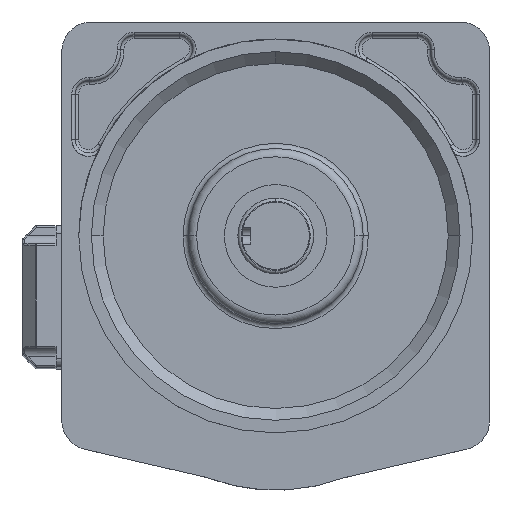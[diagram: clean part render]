
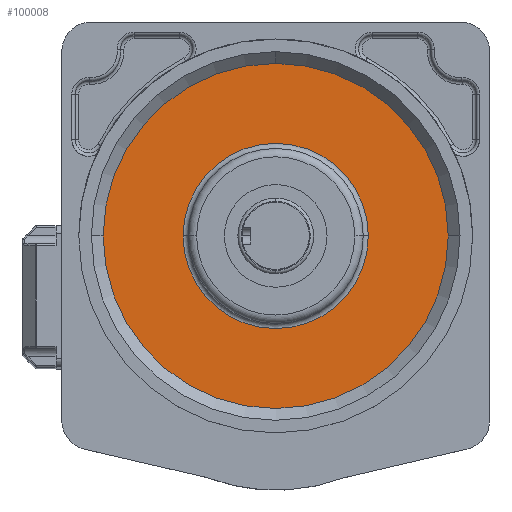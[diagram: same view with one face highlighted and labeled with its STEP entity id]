
A CAD part, top view. The second image highlights one B-rep face of the part: STEP entity #100008.
In plain terms, the highlighted planar face has unit normal (0, 0, 1) as drawn and (0, 1, 0) by its records, which use the part's own axes.
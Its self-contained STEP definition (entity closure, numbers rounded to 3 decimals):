
#1287 = VERTEX_POINT ( 'NONE', #101894 ) ;
#1368 = FACE_OUTER_BOUND ( 'NONE', #89253, .T. ) ;
#2310 = EDGE_CURVE ( 'NONE', #6666, #9876, #73760, .T. ) ;
#3012 = DIRECTION ( 'NONE',  ( 0., -1., 0. ) ) ;
#5530 = CARTESIAN_POINT ( 'NONE',  ( 0., 139.5, -36. ) ) ;
#6666 = VERTEX_POINT ( 'NONE', #123868 ) ;
#8426 = DIRECTION ( 'NONE',  ( 0., 0., -1. ) ) ;
#9876 = VERTEX_POINT ( 'NONE', #108834 ) ;
#14237 = CARTESIAN_POINT ( 'NONE',  ( 0., 139.5, -36. ) ) ;
#16235 = AXIS2_PLACEMENT_3D ( 'NONE', #59167, #99913, #8426 ) ;
#19998 = VERTEX_POINT ( 'NONE', #51666 ) ;
#24572 = EDGE_CURVE ( 'NONE', #1287, #6666, #94858, .T. ) ;
#27155 = CIRCLE ( 'NONE', #44200, 55. ) ;
#28407 = ORIENTED_EDGE ( 'NONE', *, *, #2310, .F. ) ;
#32094 = DIRECTION ( 'NONE',  ( 0., 1., 0. ) ) ;
#34385 = EDGE_CURVE ( 'NONE', #19998, #36108, #27155, .T. ) ;
#36108 = VERTEX_POINT ( 'NONE', #72653 ) ;
#37316 = AXIS2_PLACEMENT_3D ( 'NONE', #38765, #79484, #120228 ) ;
#38765 = CARTESIAN_POINT ( 'NONE',  ( 0., 139.5, -36. ) ) ;
#39707 = EDGE_LOOP ( 'NONE', ( #92311, #81959 ) ) ;
#42136 = FACE_BOUND ( 'NONE', #39707, .T. ) ;
#43523 = ORIENTED_EDGE ( 'NONE', *, *, #120900, .F. ) ;
#43778 = DIRECTION ( 'NONE',  ( 1., 0., 0. ) ) ;
#44200 = AXIS2_PLACEMENT_3D ( 'NONE', #5530, #46277, #86979 ) ;
#44727 = EDGE_CURVE ( 'NONE', #19998, #36108, #128751, .T. ) ;
#46277 = DIRECTION ( 'NONE',  ( 0., 1., 0. ) ) ;
#51666 = CARTESIAN_POINT ( 'NONE',  ( 55., 139.5, -36.014 ) ) ;
#54967 = DIRECTION ( 'NONE',  ( 0., -1., 0. ) ) ;
#56477 = CIRCLE ( 'NONE', #131113, 102.5 ) ;
#59167 = CARTESIAN_POINT ( 'NONE',  ( 0., 139.5, -36. ) ) ;
#61875 = ORIENTED_EDGE ( 'NONE', *, *, #24572, .F. ) ;
#71159 = AXIS2_PLACEMENT_3D ( 'NONE', #94500, #3012, #43778 ) ;
#72653 = CARTESIAN_POINT ( 'NONE',  ( -55., 139.5, -35.986 ) ) ;
#72826 = DIRECTION ( 'NONE',  ( 1., 0., 0. ) ) ;
#73760 = CIRCLE ( 'NONE', #16235, 102.5 ) ;
#79484 = DIRECTION ( 'NONE',  ( 0., -1., 0. ) ) ;
#81959 = ORIENTED_EDGE ( 'NONE', *, *, #34385, .F. ) ;
#82483 = AXIS2_PLACEMENT_3D ( 'NONE', #123592, #32094, #72826 ) ;
#82847 = PLANE ( 'NONE',  #82483 ) ;
#86979 = DIRECTION ( 'NONE',  ( 1., 0., 0. ) ) ;
#89253 = EDGE_LOOP ( 'NONE', ( #28407, #61875, #43523 ) ) ;
#92311 = ORIENTED_EDGE ( 'NONE', *, *, #44727, .T. ) ;
#94500 = CARTESIAN_POINT ( 'NONE',  ( 0., 139.5, -36. ) ) ;
#94858 = CIRCLE ( 'NONE', #37316, 102.5 ) ;
#95676 = DIRECTION ( 'NONE',  ( 0., 0., -1. ) ) ;
#99913 = DIRECTION ( 'NONE',  ( 0., -1., 0. ) ) ;
#100008 = ADVANCED_FACE ( 'NONE', ( #1368, #42136 ), #82847, .T. ) ;
#101894 = CARTESIAN_POINT ( 'NONE',  ( 102.5, 139.5, -36. ) ) ;
#108834 = CARTESIAN_POINT ( 'NONE',  ( 0., 139.5, -138.5 ) ) ;
#120228 = DIRECTION ( 'NONE',  ( 0., 0., 1. ) ) ;
#120900 = EDGE_CURVE ( 'NONE', #9876, #1287, #56477, .T. ) ;
#123592 = CARTESIAN_POINT ( 'NONE',  ( 0., 139.5, -36. ) ) ;
#123868 = CARTESIAN_POINT ( 'NONE',  ( -102.5, 139.5, -36. ) ) ;
#128751 = CIRCLE ( 'NONE', #71159, 55. ) ;
#131113 = AXIS2_PLACEMENT_3D ( 'NONE', #14237, #54967, #95676 ) ;
